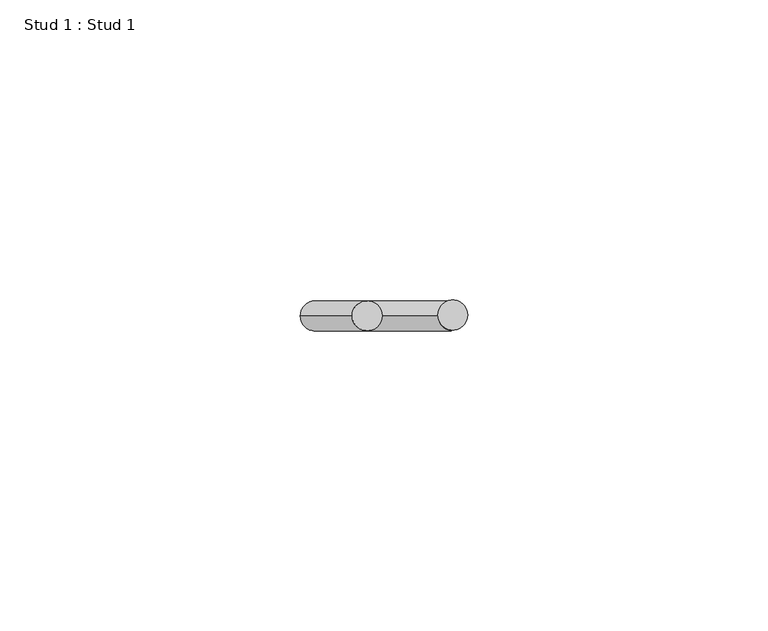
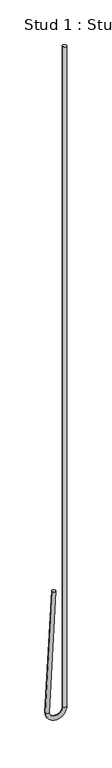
"""IFC4 building model written with IfcOpenShell, lengths in millimetres: proxy geometry, Stud 1 : Stud 1."""

import ifcopenshell
import ifcopenshell.guid

model = None  # the IFC model being written
_history = None  # IfcOwnerHistory: only IFC2X3 demands one
_inside = {}  # id of a spatial element -> (the spatial element, [elements in it])
_under = {}  # id of a project, library or spatial element -> (it, [spatial elements below it])
_declared = {}  # id of a project -> (the project, [libraries it declares])
_typed = {}  # id of a type object -> (the type object, [elements of that type])
_made_of = {}  # id of a material, layer set ... -> (it, [elements and type objects made of it])


def new_model(schema):
    """Start an empty IFC model of exactly this schema.

    Asked for "IFC4X3", IfcOpenShell would pick the latest addendum, in which some entities
    have other attributes; the version numbers below select the first issue.
    IFC2X3 requires an IfcOwnerHistory on every rooted entity: one is made here for all.
    """
    global model, _history
    if schema == "IFC4X3":
        model = ifcopenshell.file(schema_version=(4, 3, 0, 0))
    else:
        model = ifcopenshell.file(schema=schema)
    _inside.clear()
    _under.clear()
    _declared.clear()
    _typed.clear()
    _made_of.clear()
    _history = None
    if model.schema == "IFC2X3":
        org = make("IfcOrganization", Name="unknown")
        user = make(
            "IfcPersonAndOrganization",
            ThePerson=make("IfcPerson", FamilyName="unknown"),
            TheOrganization=org,
        )
        app = make(
            "IfcApplication",
            ApplicationDeveloper=org,
            Version="unknown",
            ApplicationFullName="unknown",
            ApplicationIdentifier="unknown",
        )
        _history = make(
            "IfcOwnerHistory",
            OwningUser=user,
            OwningApplication=app,
            ChangeAction="ADDED",
            CreationDate=0,
        )
    return model


def make(cls, **values):
    """One entity of the class cls with the attributes given. An attribute that is None is left unset."""
    return model.create_entity(
        cls, **{name: value for name, value in values.items() if value is not None}
    )


def rooted(cls, **values):
    """An entity with a GlobalId (a new one), such as an element, a storey or a relation."""
    return make(cls, GlobalId=ifcopenshell.guid.new(), OwnerHistory=_history, **values)


def si_unit(unit_type, name, prefix=None):
    """IfcSIUnit, for example si_unit("LENGTHUNIT", "METRE", prefix="MILLI")."""
    return make("IfcSIUnit", UnitType=unit_type, Prefix=prefix, Name=name)


def assignment(units):
    """IfcUnitAssignment: the units of a project."""
    return None if units is None else make("IfcUnitAssignment", Units=units)


def point(xyz):
    """IfcCartesianPoint."""
    return None if xyz is None else make("IfcCartesianPoint", Coordinates=xyz)


def direction(xyz):
    """IfcDirection."""
    return None if xyz is None else make("IfcDirection", DirectionRatios=xyz)


def frame(location, z_axis=None, x_axis=None):
    """IfcAxis2Placement3D, a coordinate frame: its origin and axes. An axis left out is left unset."""
    return make(
        "IfcAxis2Placement3D",
        Location=point(location),
        Axis=direction(z_axis),
        RefDirection=direction(x_axis),
    )


def origin():
    """The frame at (0, 0, 0) with its axes left unset."""
    return frame((0.0, 0.0, 0.0))


def place(relative_to, where):
    """IfcLocalPlacement: puts the frame where relative to a parent placement (None: the world)."""
    return make(
        "IfcLocalPlacement", PlacementRelTo=relative_to, RelativePlacement=where
    )


def context(
    kind, dimensions, precision=None, world=None, true_north=None, identifier=None
):
    """IfcGeometricRepresentationContext, for example the 3D "Model" context."""
    return make(
        "IfcGeometricRepresentationContext",
        ContextIdentifier=identifier,
        ContextType=kind,
        CoordinateSpaceDimension=dimensions,
        Precision=precision,
        WorldCoordinateSystem=world,
        TrueNorth=true_north,
    )


def project(units=None, contexts=None):
    """IfcProject with its units and contexts."""
    return rooted(
        "IfcProject",
        Name="project",
        RepresentationContexts=contexts,
        UnitsInContext=assignment(units),
    )


def spatial(cls, under=None, at=None, **own):
    """A site, building, storey or space (cls), placed at a placement, below another one or the project."""
    s = rooted(cls, ObjectPlacement=at, **own)
    if under is not None:
        _under.setdefault(under.id(), (under, []))[1].append(s)
    return s


def circle_curve(where, radius):
    """IfcCircle in the frame where."""
    return make("IfcCircle", Position=where, Radius=radius)


def ellipse_curve(where, semi_axis1, semi_axis2):
    """IfcEllipse in the frame where."""
    return make(
        "IfcEllipse", Position=where, SemiAxis1=semi_axis1, SemiAxis2=semi_axis2
    )


def trimmed(basis, trim1, trim2, sense, master):
    """IfcTrimmedCurve: the piece of a basis curve between two trims."""
    return make(
        "IfcTrimmedCurve",
        BasisCurve=basis,
        Trim1=trim1,
        Trim2=trim2,
        SenseAgreement=sense,
        MasterRepresentation=master,
    )


def shape(context_of_items, identifier, shape_type, items):
    """IfcShapeRepresentation: the items that make up one representation, for example the "Body"."""
    return make(
        "IfcShapeRepresentation",
        ContextOfItems=context_of_items,
        RepresentationIdentifier=identifier,
        RepresentationType=shape_type,
        Items=items,
    )


def source(mapping_origin, context_of_items, identifier, shape_type, items):
    """IfcRepresentationMap: a shape defined once, which mapped items show again and again."""
    return make(
        "IfcRepresentationMap",
        MappingOrigin=mapping_origin,
        MappedRepresentation=shape(context_of_items, identifier, shape_type, items),
    )


def transform(
    local_origin,
    x_axis=None,
    y_axis=None,
    z_axis=None,
    scale=None,
    scale2=None,
    scale3=None,
    uniform=True,
):
    """IfcCartesianTransformationOperator3D, or its non-uniform kind. x_axis, y_axis, z_axis: its Axis1, 2, 3."""
    if uniform:
        return make(
            "IfcCartesianTransformationOperator3D",
            Axis1=direction(x_axis),
            Axis2=direction(y_axis),
            LocalOrigin=point(local_origin),
            Scale=scale,
            Axis3=direction(z_axis),
        )
    return make(
        "IfcCartesianTransformationOperator3DnonUniform",
        Axis1=direction(x_axis),
        Axis2=direction(y_axis),
        LocalOrigin=point(local_origin),
        Scale=scale,
        Axis3=direction(z_axis),
        Scale2=scale2,
        Scale3=scale3,
    )


def mapped(mapping_source, mapping_target):
    """IfcMappedItem: shows the shape of a source again, moved by a transform."""
    return make(
        "IfcMappedItem", MappingSource=mapping_source, MappingTarget=mapping_target
    )


def made_of(thing, what):
    """Note that an element or type object is made of a material, layer set ...; save() writes the relation."""
    if what is not None:
        _made_of.setdefault(what.id(), (what, []))[1].append(thing)
    return thing


def element(
    cls,
    number,
    at=None,
    inside=None,
    cuts=None,
    type_object=None,
    material=None,
    context=None,
    identifier="Body",
    shape_type=None,
    held_by="IfcProductDefinitionShape",
    body=None,
    shapes=None,
    **own,
):
    """One element of the class cls, such as IfcWall. Its Tag is "e" and its number.

    at: its placement. inside: the storey or other place that contains it. cuts: it is an
    opening in that element (IfcRelVoidsElement). A single representation is given by context,
    identifier, shape_type and body (its items); several are given by shapes. held_by: the class
    of the entity that holds the representations. save() writes the other relations.
    """
    e = rooted(cls, Tag="e%d" % number, ObjectPlacement=at, **own)
    if body is not None:
        shapes = [shape(context, identifier, shape_type, body)]
    if shapes is not None:
        e.Representation = make(held_by, Representations=shapes)
    if inside is not None:
        _inside.setdefault(inside.id(), (inside, []))[1].append(e)
    if cuts is not None:
        rooted(
            "IfcRelVoidsElement", RelatingBuildingElement=cuts, RelatedOpeningElement=e
        )
    if type_object is not None:
        _typed.setdefault(type_object.id(), (type_object, []))[1].append(e)
    return made_of(e, material)


def aggregate(whole, parts):
    """IfcRelAggregates: a whole, such as a stair, and the parts it consists of."""
    return rooted("IfcRelAggregates", RelatingObject=whole, RelatedObjects=parts)


def save(model, path):
    """Write the relations noted so far, then the file.

    IfcRelAggregates (storeys below a building ...), IfcRelContainedInSpatialStructure (elements
    in a storey), IfcRelDefinesByType, IfcRelAssociatesMaterial and IfcRelDeclares: one each for
    every whole, place, type object, material and project.
    """
    for whole, parts in _under.values():
        aggregate(whole, parts)
    for where, things in _inside.values():
        rooted(
            "IfcRelContainedInSpatialStructure",
            RelatedElements=things,
            RelatingStructure=where,
        )
    for kind, things in _typed.values():
        rooted("IfcRelDefinesByType", RelatedObjects=things, RelatingType=kind)
    for what, things in _made_of.values():
        rooted("IfcRelAssociatesMaterial", RelatedObjects=things, RelatingMaterial=what)
    for by, libraries in _declared.values():
        rooted("IfcRelDeclares", RelatingContext=by, RelatedDefinitions=libraries)
    model.write(path)


def plane_surface(at):
    """IfcPlane: the flat surface through the origin of the frame at, square to its z axis."""
    return make("IfcPlane", Position=at)


def cylinder_surface(at, radius):
    """IfcCylindricalSurface: all points at the distance radius from the z axis of the frame at."""
    return make("IfcCylindricalSurface", Position=at, Radius=radius)


def revolved_surface(curve, axis_point, axis_direction):
    """IfcSurfaceOfRevolution: the curve turned about the line through axis_point along axis_direction."""
    return make(
        "IfcSurfaceOfRevolution",
        SweptCurve=make("IfcArbitraryOpenProfileDef", ProfileType="CURVE", Curve=curve),
        AxisPosition=make("IfcAxis1Placement", Location=point(axis_point), Axis=direction(axis_direction)),
    )


def advanced_brep(points, edges, surfaces, faces):
    """IfcAdvancedBrep: a solid bounded by faces that lie on surfaces and meet in shared edges.

    An edge is (start, end): straight between two places in points (the first is 0);
    or (start, end, curve); or (start, end, curve, False) where it runs against its curve.
    A face is (place in surfaces, loops), or (place, loops, False) where it looks against
    its surface's normal. A loop lists edges by number (the first is 1), with a minus sign
    where the edge is run from its end to its start. The first loop is the outer one.
    """
    corners = [point(p) for p in points]
    vertices = [make("IfcVertexPoint", VertexGeometry=c) for c in corners]
    made = []
    for start, end, *more in edges:
        made.append(
            make(
                "IfcEdgeCurve",
                EdgeStart=vertices[start],
                EdgeEnd=vertices[end],
                EdgeGeometry=more[0] if more else make("IfcPolyline", Points=[corners[start], corners[end]]),
                SameSense=more[1] if len(more) > 1 else True,
            )
        )
    hull = []
    for where, loops, *sense in faces:
        bounds = []
        for j, loop in enumerate(loops):
            ring = [make("IfcOrientedEdge", EdgeElement=made[abs(k) - 1], Orientation=k > 0) for k in loop]
            bounds.append(
                make(
                    "IfcFaceOuterBound" if j == 0 else "IfcFaceBound",
                    Bound=make("IfcEdgeLoop", EdgeList=ring),
                    Orientation=True,
                )
            )
        hull.append(make("IfcAdvancedFace", Bounds=bounds, FaceSurface=surfaces[where], SameSense=sense[0] if sense else True))
    return make("IfcAdvancedBrep", Outer=make("IfcClosedShell", CfsFaces=hull))


def stud_1_stud_1_42a6b7a6(model_context):
    return source(origin(), model_context, "Body", "AdvancedBrep", [
        advanced_brep(
        [(-10978.2326538, 2138.5191481, 3640.800192), (-10973.2395061, 2138.5191481, 3640.5385122), (-10986.8733201, 2138.5191481, 3475.9264558), (-10981.8801725, 2138.5191481, 3475.664776), (-10963.9714562, 2138.5191481, 3475.7956159), (-10958.9714562, 2138.5191481, 3475.7956159), (-10958.9714562, 2138.5191481, 4390.1956159), (-10963.9714562, 2138.5191481, 4390.1956159)],
        [
            (0, 1, circle_curve(frame((-10975.7360799, 2138.5191481, 3640.6693521), z_axis=(0.05233595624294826, 0.0, 0.9986295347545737), x_axis=(0.9986295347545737, 0.0, -0.05233595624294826)), 2.5)),
            (1, 0, circle_curve(frame((-10975.7360799, 2138.5191481, 3640.6693521), z_axis=(0.05233595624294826, 0.0, 0.9986295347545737), x_axis=(0.9986295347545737, 0.0, -0.05233595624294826)), 2.5)),
            (0, 2),
            (2, 3, circle_curve(frame((-10984.3767463, 2138.5191481, 3475.7956159), z_axis=(0.05233595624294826, 0.0, 0.9986295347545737), x_axis=(0.9986295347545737, 0.0, -0.05233595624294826)), 2.5)),
            (3, 1),
            (3, 2, circle_curve(frame((-10984.3767463, 2138.5191481, 3475.7956159), z_axis=(0.05233595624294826, 0.0, 0.9986295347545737), x_axis=(0.9986295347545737, 0.0, -0.05233595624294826)), 2.5)),
            (4, 3, circle_curve(frame((-10972.9241013, 2138.5191481, 3475.7956159), z_axis=(0.0, 1.0, 0.0), x_axis=(-1.0, 0.0, 0.0)), 8.952645)),
            (2, 5, circle_curve(frame((-10972.9241013, 2138.5191481, 3475.7956159), z_axis=(0.0, -1.0, 0.0), x_axis=(-1.0, 0.0, 0.0)), 13.952645)),
            (5, 4, circle_curve(frame((-10961.4714562, 2138.5191481, 3475.7956159), z_axis=(0.0, 0.0, -1.0), x_axis=(-1.0, 0.0, 0.0)), 2.5)),
            (4, 5, circle_curve(frame((-10961.4714562, 2138.5191481, 3475.7956159), z_axis=(0.0, 0.0, -1.0), x_axis=(-1.0, 0.0, 0.0)), 2.5)),
            (6, 7, circle_curve(frame((-10961.4714562, 2138.5191481, 4390.1956159), z_axis=(0.0, 0.0, 1.0), x_axis=(-1.0, 0.0, 0.0)), 2.5)),
            (7, 6, circle_curve(frame((-10961.4714562, 2138.5191481, 4390.1956159), z_axis=(0.0, 0.0, 1.0), x_axis=(-1.0, 0.0, 0.0)), 2.5)),
            (5, 6),
            (7, 4),
        ],
        [
            plane_surface(frame((-10975.7360799, 2732.2441481, 3640.6693521), z_axis=(0.05233595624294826, 0.0, 0.9986295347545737), x_axis=(0.0, -1.0, 0.0))),
            cylinder_surface(frame((-10975.7360799, 2138.5191481, 3640.6693521), z_axis=(0.05233595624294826, 0.0, 0.9986295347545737), x_axis=(0.9986295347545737, 0.0, -0.05233595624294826)), 2.5),
            revolved_surface(trimmed(ellipse_curve(frame((-10984.3767463, 2138.5191481, 3475.7956159), z_axis=(0.0, 0.0, 1.0), x_axis=(1.0, 0.0, 0.0)), 2.5, 2.5), [point((-10986.8767463, 2138.5191481, 3475.7956159))], [point((-10981.8767463, 2138.5191481, 3475.7956159))], True, "CARTESIAN"), (-10972.9241013, 2732.2441481, 3475.7956159), (0.0, -1.0, 0.0)),
            revolved_surface(trimmed(ellipse_curve(frame((-10984.3767463, 2138.5191481, 3475.7956159), z_axis=(0.0, 0.0, 1.0), x_axis=(1.0, 0.0, 0.0)), 2.5, 2.5), [point((-10981.8767463, 2138.5191481, 3475.7956159))], [point((-10986.8767463, 2138.5191481, 3475.7956159))], True, "CARTESIAN"), (-10972.9241013, 2732.2441481, 3475.7956159), (0.0, -1.0, 0.0)),
            plane_surface(frame((-10961.4714562, 2732.2441481, 4390.1956159), z_axis=(0.0, 0.0, 1.0), x_axis=(0.0, -1.0, 0.0))),
            cylinder_surface(frame((-10961.4714562, 2138.5191481, 3475.7956159), z_axis=(0.0, 0.0, -1.0), x_axis=(-1.0, 0.0, 0.0)), 2.5),
        ],
        [
            (0, [[1, 2]]),
            (1, [[-1, 3, 4, 5]]),
            (1, [[-2, -5, 6, -3]]),
            (2, [[7, -4, 8, 9]]),
            (3, [[-8, -6, -7, 10]]),
            (4, [[11, 12]]),
            (5, [[-9, 13, -12, 14]]),
            (5, [[-10, -14, -11, -13]]),
        ],
    ),
    ])


if __name__ == "__main__":
    model = new_model("IFC4")
    model_context = context("Model", 3, world=origin())
    ifc_project = project(units=[si_unit("LENGTHUNIT", "METRE", prefix="MILLI")], contexts=[model_context])
    site = spatial("IfcSite", under=ifc_project)
    building = spatial("IfcBuilding", under=site)
    placement = place(None, origin())
    stud_1_stud_1_shape = stud_1_stud_1_42a6b7a6(model_context)
    element("IfcBuildingElementProxy", 1, Name="Stud 1 : Stud 1", ObjectType="Stud 1 : Stud 1", at=placement, inside=building, context=model_context, shape_type="MappedRepresentation", body=[
        mapped(stud_1_stud_1_shape, transform((0.0, 0.0, 0.0), x_axis=(1.0, 0.0, 0.0), y_axis=(0.0, 1.0, 0.0), z_axis=(0.0, 0.0, 1.0))),
    ])
    save(model, "model.ifc")
